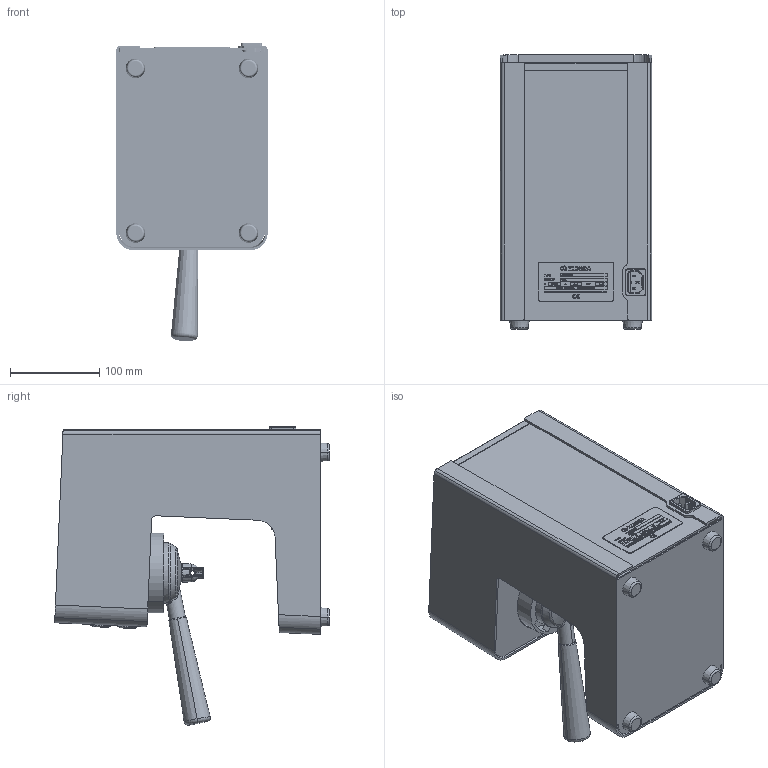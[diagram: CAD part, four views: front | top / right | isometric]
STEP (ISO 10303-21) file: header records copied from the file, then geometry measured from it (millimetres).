
FILE_DESCRIPTION (( 'STEP AP214' ), '1' );
FILE_NAME ('Zuriga E2 ASSEMBLY-STP.STEP', '2025-06-23T13:41:57', ( '' ), ( '' ), 'SwSTEP 2.0', 'SolidWorks 2022', '' );
FILE_SCHEMA (( 'AUTOMOTIVE_DESIGN' ));
Length unit declared in the file: millimetre
Products named in the file (1): Zuriga E2 ASSEMBLY-STP
Bounding box: 170 x 308.5 x 334.85 mm (x, y, z)
Volume: 925245.4 mm3; surface area: 709262.8 mm2
Topology: 7 solids, 7 shells, 4805 faces, 13423 edges, 8815 vertices
Faces by surface type: plane 2251, cylinder 1308, bspline 1052, torus 92, cone 71, sphere 31
Entity records: 216542 total; most frequent: CARTESIAN_POINT 87256, ORIENTED_EDGE 26792, DIRECTION 19527, EDGE_CURVE 13396, VERTEX_POINT 8814, LINE 6781, VECTOR 6781, AXIS2_PLACEMENT_3D 6373
